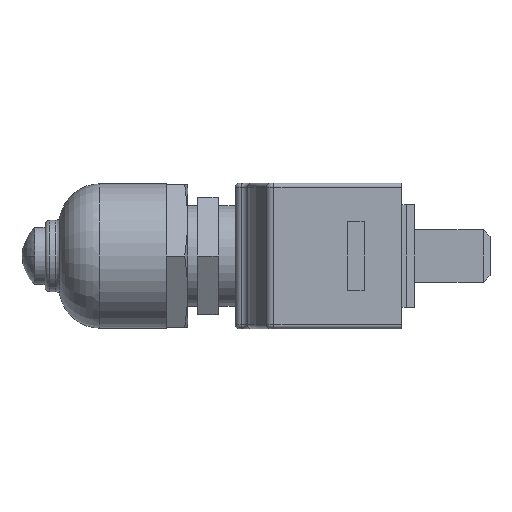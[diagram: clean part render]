
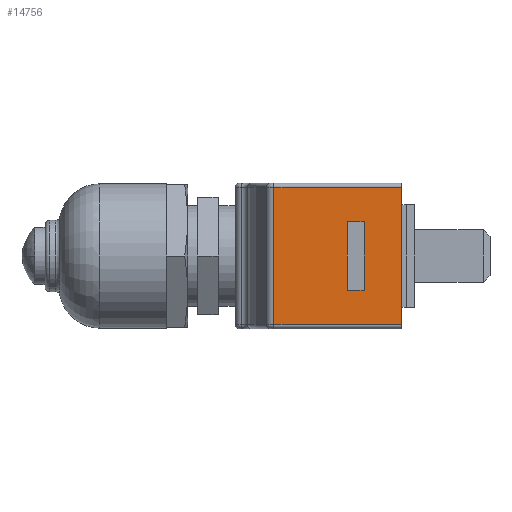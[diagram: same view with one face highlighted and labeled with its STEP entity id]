
A CAD part, left-side view. The second image highlights one B-rep face of the part: STEP entity #14756.
In plain terms, the highlighted planar face has unit normal (-1, 0, 0).
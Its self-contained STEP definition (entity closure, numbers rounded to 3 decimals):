
#11882 = DIRECTION ( 'NONE',  ( 0., 1., 0. ) ) ;
#11883 = VECTOR ( 'NONE', #11882, 1000. ) ;
#11884 = CARTESIAN_POINT ( 'NONE',  ( -35.2, 11.461, 8.2 ) ) ;
#11885 = LINE ( 'NONE', #11884, #11883 ) ;
#11887 = CARTESIAN_POINT ( 'NONE',  ( -35.2, -3.8, 8.2 ) ) ;
#11888 = DIRECTION ( 'NONE',  ( 0., 0., -1. ) ) ;
#11889 = VECTOR ( 'NONE', #11888, 1000. ) ;
#11890 = CARTESIAN_POINT ( 'NONE',  ( -35.2, -3.8, 8.7 ) ) ;
#11891 = LINE ( 'NONE', #11890, #11889 ) ;
#11892 = CARTESIAN_POINT ( 'NONE',  ( -35.2, -3.8, -8.2 ) ) ;
#11932 = CARTESIAN_POINT ( 'NONE',  ( -35.2, 0.7, -4.1 ) ) ;
#11933 = DIRECTION ( 'NONE',  ( 0., 0., -1. ) ) ;
#11934 = VECTOR ( 'NONE', #11933, 1000. ) ;
#11935 = CARTESIAN_POINT ( 'NONE',  ( -35.2, 0.7, 4.1 ) ) ;
#11936 = LINE ( 'NONE', #11935, #11934 ) ;
#11937 = CARTESIAN_POINT ( 'NONE',  ( -35.2, 0.7, 4.1 ) ) ;
#11938 = CARTESIAN_POINT ( 'NONE',  ( -35.2, 2.7, 4.1 ) ) ;
#11939 = DIRECTION ( 'NONE',  ( 0., -1., 0. ) ) ;
#11940 = VECTOR ( 'NONE', #11939, 1000. ) ;
#11941 = CARTESIAN_POINT ( 'NONE',  ( -35.2, 2.7, 4.1 ) ) ;
#11942 = LINE ( 'NONE', #11941, #11940 ) ;
#11977 = PLANE ( 'NONE',  #11979 ) ;
#11978 = CARTESIAN_POINT ( 'NONE',  ( -35.2, 11.461, 8.7 ) ) ;
#11979 = AXIS2_PLACEMENT_3D ( 'NONE', #11978, #12038, #12037 ) ;
#11980 = FACE_BOUND ( 'NONE', #14714, .T. ) ;
#11981 = FACE_OUTER_BOUND ( 'NONE', #14772, .T. ) ;
#12027 = DIRECTION ( 'NONE',  ( 0., -1., 0. ) ) ;
#12028 = VECTOR ( 'NONE', #12027, 1000. ) ;
#12029 = CARTESIAN_POINT ( 'NONE',  ( -35.2, 11.461, -8.2 ) ) ;
#12030 = LINE ( 'NONE', #12029, #12028 ) ;
#12031 = CARTESIAN_POINT ( 'NONE',  ( -35.2, 11.461, -8.2 ) ) ;
#12032 = CARTESIAN_POINT ( 'NONE',  ( -35.2, 11.461, 8.2 ) ) ;
#12033 = DIRECTION ( 'NONE',  ( 0., 0., -1. ) ) ;
#12034 = VECTOR ( 'NONE', #12033, 1000. ) ;
#12035 = CARTESIAN_POINT ( 'NONE',  ( -35.2, 11.461, 8.7 ) ) ;
#12036 = LINE ( 'NONE', #12035, #12034 ) ;
#12037 = DIRECTION ( 'NONE',  ( 0., 0., -1. ) ) ;
#12038 = DIRECTION ( 'NONE',  ( 1., 0., 0. ) ) ;
#12119 = DIRECTION ( 'NONE',  ( 0., 0., 1. ) ) ;
#12120 = VECTOR ( 'NONE', #12119, 1000. ) ;
#12121 = CARTESIAN_POINT ( 'NONE',  ( -35.2, 2.7, 4.1 ) ) ;
#12122 = LINE ( 'NONE', #12121, #12120 ) ;
#12123 = CARTESIAN_POINT ( 'NONE',  ( -35.2, 2.7, -4.1 ) ) ;
#12124 = DIRECTION ( 'NONE',  ( 0., 1., 0. ) ) ;
#12125 = VECTOR ( 'NONE', #12124, 1000. ) ;
#12126 = CARTESIAN_POINT ( 'NONE',  ( -35.2, 2.7, -4.1 ) ) ;
#12127 = LINE ( 'NONE', #12126, #12125 ) ;
#14707 = VERTEX_POINT ( 'NONE', #11892 ) ;
#14708 = ORIENTED_EDGE ( 'NONE', *, *, #14709, .F. ) ;
#14709 = EDGE_CURVE ( 'NONE', #14710, #14707, #11891, .T. ) ;
#14710 = VERTEX_POINT ( 'NONE', #11887 ) ;
#14712 = ORIENTED_EDGE ( 'NONE', *, *, #14713, .T. ) ;
#14713 = EDGE_CURVE ( 'NONE', #14710, #14759, #11885, .T. ) ;
#14714 = EDGE_LOOP ( 'NONE', ( #14715, #14719, #14722, #14822 ) ) ;
#14715 = ORIENTED_EDGE ( 'NONE', *, *, #14716, .T. ) ;
#14716 = EDGE_CURVE ( 'NONE', #14717, #14718, #11942, .T. ) ;
#14717 = VERTEX_POINT ( 'NONE', #11938 ) ;
#14718 = VERTEX_POINT ( 'NONE', #11937 ) ;
#14719 = ORIENTED_EDGE ( 'NONE', *, *, #14720, .T. ) ;
#14720 = EDGE_CURVE ( 'NONE', #14718, #14721, #11936, .T. ) ;
#14721 = VERTEX_POINT ( 'NONE', #11932 ) ;
#14722 = ORIENTED_EDGE ( 'NONE', *, *, #14820, .T. ) ;
#14756 = ADVANCED_FACE ( 'NONE', ( #11981, #11980 ), #11977, .F. ) ;
#14757 = ORIENTED_EDGE ( 'NONE', *, *, #14758, .T. ) ;
#14758 = EDGE_CURVE ( 'NONE', #14759, #14760, #12036, .T. ) ;
#14759 = VERTEX_POINT ( 'NONE', #12032 ) ;
#14760 = VERTEX_POINT ( 'NONE', #12031 ) ;
#14761 = ORIENTED_EDGE ( 'NONE', *, *, #14762, .T. ) ;
#14762 = EDGE_CURVE ( 'NONE', #14760, #14707, #12030, .T. ) ;
#14772 = EDGE_LOOP ( 'NONE', ( #14757, #14761, #14708, #14712 ) ) ;
#14820 = EDGE_CURVE ( 'NONE', #14721, #14821, #12127, .T. ) ;
#14821 = VERTEX_POINT ( 'NONE', #12123 ) ;
#14822 = ORIENTED_EDGE ( 'NONE', *, *, #14823, .T. ) ;
#14823 = EDGE_CURVE ( 'NONE', #14821, #14717, #12122, .T. ) ;
